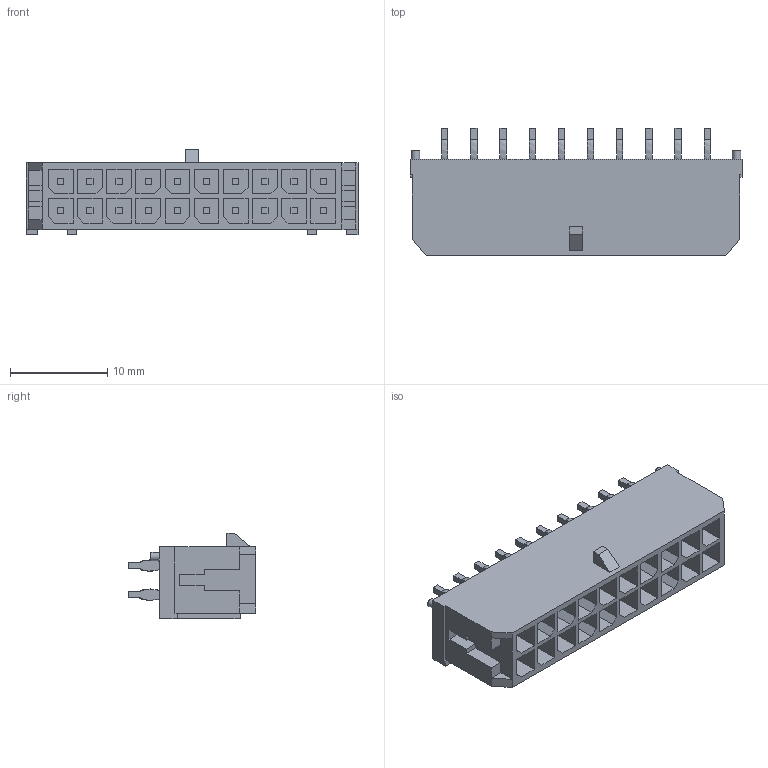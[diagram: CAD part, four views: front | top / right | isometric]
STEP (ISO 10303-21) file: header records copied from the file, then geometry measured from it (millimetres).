
FILE_DESCRIPTION(/* description */ (''),/* implementation_level */ '2;1');
FILE_NAME(/* name */ '449142001wbm000_01_214.stp',/* time_stamp */ '2023-07-27T16:09:54+06:00',/* author */ (''),/* organization */ (''),/* preprocessor_version */ 'ST-DEVELOPER v16.7',/* originating_system */ 'SIEMENS PLM Software NX 1919',/* authorisation */ '');
FILE_SCHEMA (('AUTOMOTIVE_DESIGN { 1 0 10303 214 3 1 1 1 }'));
Length unit declared in the file: millimetre
Products named in the file (1): 449142001wbm000_01
Bounding box: 34.15 x 13.09 x 8.8 mm (x, y, z)
Volume: 1494.7 mm3; surface area: 3038.9 mm2
Topology: 1 solids, 1 shells, 424 faces, 1061 edges, 704 vertices
Faces by surface type: plane 382, bspline 40, cylinder 2
Full cylindrical faces by diameter (mm): 0.86 x2
Entity records: 17503 total; most frequent: CARTESIAN_POINT 7748, ORIENTED_EDGE 2118, DIRECTION 1673, EDGE_CURVE 1059, LINE 895, VECTOR 895, VERTEX_POINT 704, EDGE_LOOP 491
